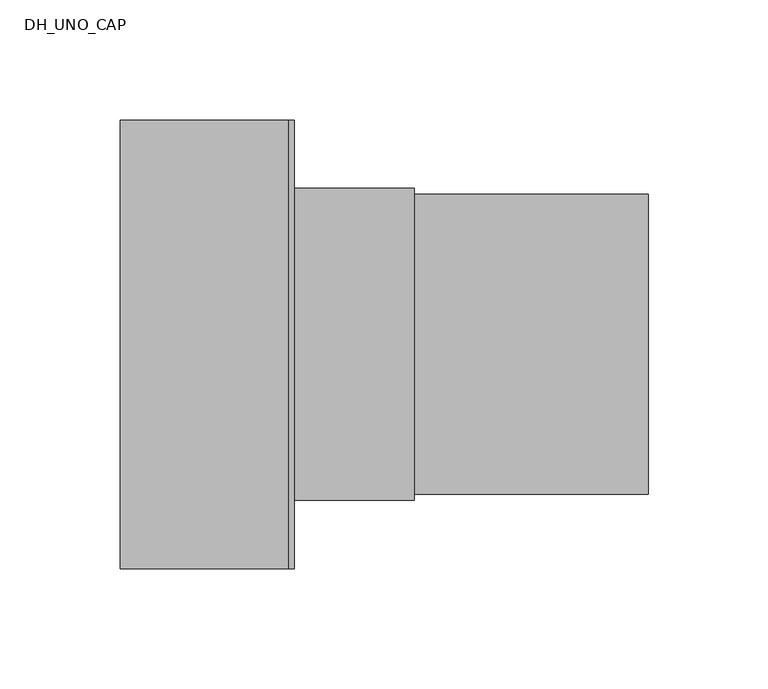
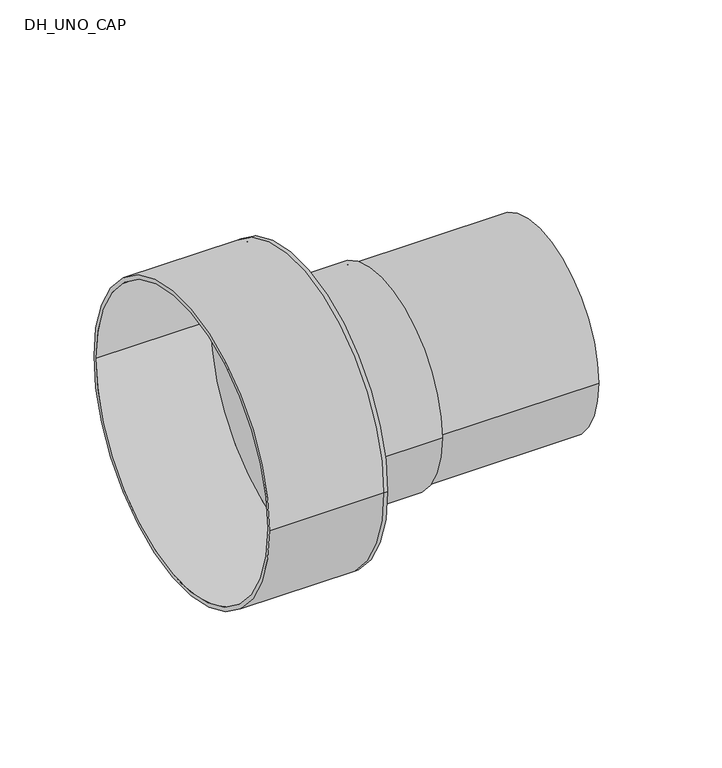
"""IFC4 building model written with IfcOpenShell, lengths in millimetres: pipe fitting geometry, DH_UNO_CAP : RAUTHERMEX UNO 11 Heating - Rubber Cap."""

from ifc_helpers import new_model, si_unit, point, frame, origin, origin_2d, place, context, project, spatial, polyline, circle_curve, trimmed, segment, composite_curve, outline, extrude, source, transform, mapped, element, save
from ifc_brep_helpers import plane_surface, cylinder_surface, revolved_surface, advanced_brep


def dh_uno_cap_740adfad(model_context):
    return source(origin(), model_context, "Body", "SolidModel", [
        extrude(outline(composite_curve([segment(trimmed(circle_curve(origin_2d(), 62.5), [point((-62.5, 0.0))], [point((62.5, 0.0))], False, "CARTESIAN"), True, "CONTINUOUS"), segment(trimmed(circle_curve(origin_2d(), 62.5), [point((62.5, 0.0))], [point((-62.5, 0.0))], False, "CARTESIAN"), True, "CONTINUOUS")], self_intersect=False), holes=[composite_curve([segment(trimmed(circle_curve(origin_2d(), 51.1), [point((-51.1, 0.0))], [point((51.1, 0.0))], True, "CARTESIAN"), True, "CONTINUOUS"), segment(trimmed(circle_curve(origin_2d(), 51.1), [point((51.1, 0.0))], [point((-51.1, 0.0))], True, "CARTESIAN"), True, "CONTINUOUS")], self_intersect=False)]), frame((0.0, 0.0, 0.0), z_axis=(1.0, 0.0, 0.0), x_axis=(0.0, 1.0, 0.0)), (0.0, 0.0, 1.0), 150.0),
        advanced_brep(
        [(-70.0, -93.5, 0.0), (-70.0, 93.5, 0.0), (-70.0, -91.0, 0.0), (-70.0, 91.0, 0.0), (0.0, -91.0, 0.0), (0.0, 91.0, 0.0), (0.0, -93.5, 0.0), (0.0, 93.5, 0.0), (0.0, 62.5, 0.0), (0.0, -62.5, 0.0), (2.5, -93.5, 0.0), (2.5, 93.5, 0.0), (2.5, -62.5, 0.0), (2.5, 62.5, 0.0)],
        [
            (0, 1, circle_curve(frame((-70.0, 0.0, 0.0), z_axis=(-1.0, 0.0, 0.0), x_axis=(0.0, 1.0, 0.0)), 93.5)),
            (1, 0, circle_curve(frame((-70.0, 0.0, 0.0), z_axis=(-1.0, 0.0, 0.0), x_axis=(0.0, 1.0, 0.0)), 93.5)),
            (2, 3, circle_curve(frame((-70.0, 0.0, 0.0), z_axis=(1.0, 0.0, 0.0), x_axis=(0.0, 1.0, 0.0)), 91.0)),
            (3, 2, circle_curve(frame((-70.0, 0.0, 0.0), z_axis=(1.0, 0.0, 0.0), x_axis=(0.0, 1.0, 0.0)), 91.0)),
            (2, 4),
            (4, 5, circle_curve(frame((0.0, 0.0, 0.0), z_axis=(1.0, 0.0, 0.0), x_axis=(0.0, 1.0, 0.0)), 91.0)),
            (5, 3),
            (5, 4, circle_curve(frame((0.0, 0.0, 0.0), z_axis=(1.0, 0.0, 0.0), x_axis=(0.0, 1.0, 0.0)), 91.0)),
            (0, 6),
            (6, 7, circle_curve(frame((0.0, 0.0, 0.0), z_axis=(-1.0, 0.0, 0.0), x_axis=(0.0, 1.0, 0.0)), 93.5)),
            (7, 1),
            (7, 6, circle_curve(frame((0.0, 0.0, 0.0), z_axis=(-1.0, 0.0, 0.0), x_axis=(0.0, 1.0, 0.0)), 93.5)),
            (8, 9, circle_curve(frame((0.0, 0.0, 0.0), z_axis=(1.0, 0.0, 0.0), x_axis=(0.0, 1.0, 0.0)), 62.5)),
            (9, 8, circle_curve(frame((0.0, 0.0, 0.0), z_axis=(1.0, 0.0, 0.0), x_axis=(0.0, 1.0, 0.0)), 62.5)),
            (10, 11, circle_curve(frame((2.5, 0.0, 0.0), z_axis=(1.0, 0.0, 0.0), x_axis=(0.0, 1.0, 0.0)), 93.5)),
            (11, 10, circle_curve(frame((2.5, 0.0, 0.0), z_axis=(1.0, 0.0, 0.0), x_axis=(0.0, 1.0, 0.0)), 93.5)),
            (12, 13, circle_curve(frame((2.5, 0.0, 0.0), z_axis=(-1.0, 0.0, 0.0), x_axis=(0.0, 1.0, 0.0)), 62.5)),
            (13, 12, circle_curve(frame((2.5, 0.0, 0.0), z_axis=(-1.0, 0.0, 0.0), x_axis=(0.0, 1.0, 0.0)), 62.5)),
            (11, 7),
            (6, 10),
            (8, 13),
            (12, 9),
        ],
        [
            plane_surface(frame((-70.0, 0.0, 0.0), z_axis=(-1.0, 0.0, 0.0), x_axis=(0.0, 0.0, 1.0))),
            revolved_surface(polyline([(0.0, 91.0, 0.0), (-70.0, 91.0, 0.0)]), (-70.0, 0.0, 0.0), (1.0, 0.0, 0.0)),
            cylinder_surface(frame((-70.0, 0.0, 0.0), z_axis=(-1.0, 0.0, 0.0), x_axis=(0.0, 1.0, 0.0)), 93.5),
            plane_surface(frame((0.0, 0.0, 0.0), z_axis=(-1.0, 0.0, 0.0), x_axis=(0.0, 0.0, 1.0))),
            plane_surface(frame((2.5, 0.0, 0.0), z_axis=(1.0, 0.0, 0.0), x_axis=(0.0, 0.0, 1.0))),
            cylinder_surface(frame((0.0, 0.0, 0.0), z_axis=(-1.0, 0.0, 0.0), x_axis=(0.0, 1.0, 0.0)), 93.5),
            revolved_surface(polyline([(0.0, 62.5, 0.0), (2.5, 62.5, 0.0)]), (0.0, 0.0, 0.0), (-1.0, 0.0, 0.0)),
        ],
        [
            (0, [[1, 2], [3, 4]]),
            (1, [[-3, 5, 6, 7]]),
            (1, [[-4, -7, 8, -5]]),
            (2, [[-1, 9, 10, 11]]),
            (2, [[-2, -11, 12, -9]]),
            (3, [[-6, -8], [13, 14]]),
            (4, [[15, 16], [17, 18]]),
            (5, [[-16, 19, -10, 20]]),
            (5, [[-15, -20, -12, -19]]),
            (6, [[21, -17, 22, -13]]),
            (6, [[-21, -14, -22, -18]]),
        ],
    ),
        extrude(outline(composite_curve([segment(trimmed(circle_curve(origin_2d(), 65.0), [point((-65.0, 0.0))], [point((65.0, 0.0))], False, "CARTESIAN"), True, "CONTINUOUS"), segment(trimmed(circle_curve(origin_2d(), 65.0), [point((65.0, 0.0))], [point((-65.0, 0.0))], False, "CARTESIAN"), True, "CONTINUOUS")], self_intersect=False), holes=[composite_curve([segment(trimmed(circle_curve(origin_2d(), 62.5), [point((-62.5, 0.0))], [point((62.5, 0.0))], True, "CARTESIAN"), True, "CONTINUOUS"), segment(trimmed(circle_curve(origin_2d(), 62.5), [point((62.5, 0.0))], [point((-62.5, 0.0))], True, "CARTESIAN"), True, "CONTINUOUS")], self_intersect=False)]), frame((2.5, 0.0, 0.0), z_axis=(1.0, 0.0, 0.0), x_axis=(0.0, 1.0, 0.0)), (0.0, 0.0, 1.0), 50.0),
    ])


if __name__ == "__main__":
    model = new_model("IFC4")
    model_context = context("Model", 3, world=origin())
    ifc_project = project(units=[si_unit("LENGTHUNIT", "METRE", prefix="MILLI")], contexts=[model_context])
    site = spatial("IfcSite", under=ifc_project)
    building = spatial("IfcBuilding", under=site)
    placement = place(None, origin())
    dh_uno_cap_shape = dh_uno_cap_740adfad(model_context)
    element("IfcPipeFitting", 1, ObjectType="DH_UNO_CAP : RAUTHERMEX UNO 11 Heating - Rubber Cap", at=placement, inside=building, context=model_context, shape_type="MappedRepresentation", body=[
        mapped(dh_uno_cap_shape, transform((0.0, 0.0, 0.0), x_axis=(1.0, 0.0, 0.0), y_axis=(0.0, 1.0, 0.0), z_axis=(0.0, 0.0, 1.0))),
    ])
    save(model, "model.ifc")
